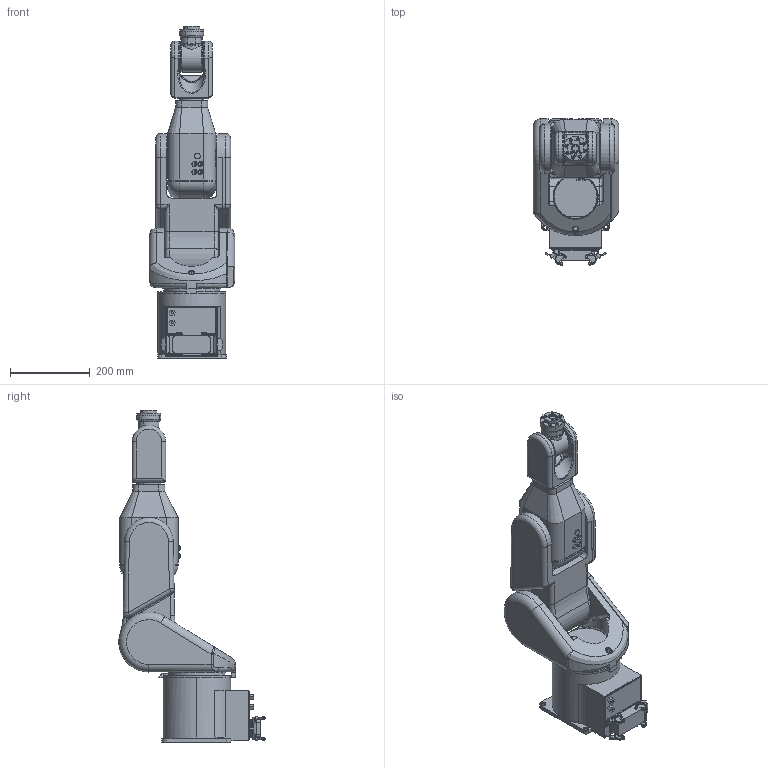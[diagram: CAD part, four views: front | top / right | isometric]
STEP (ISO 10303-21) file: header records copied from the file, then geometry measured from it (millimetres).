
FILE_DESCRIPTION(('CATIA V5 STEP Exchange'),'2;1');
FILE_NAME('D:\モデリング\☆☆☆STEP\RS\RS003N(From開発一課）_200928\3RS003N\軽量化\Part\RS003N-A001.stp','2020-10-12T06:35:48+00:00',('none'),('none'),'CATIA Version 5-6 Release 2016 SP6 HF14','CATIA V5 STEP AP203','none');
FILE_SCHEMA(('CONFIG_CONTROL_DESIGN'));
Length unit declared in the file: millimetre
Products named in the file (1): RS003N-A001
Assembly tree (7 placements, depth 2):
  RS003N-A001
    #57
    #13402
    #17312
    #21457
    #25695
    #37071
    #40166
Bounding box: 214 x 365.57 x 830 mm (x, y, z)
Volume: 16827604.4 mm3; surface area: 940697.5 mm2
Topology: 8 solids, 8 shells, 1103 faces, 2791 edges, 1728 vertices
Faces by surface type: cylinder 468, plane 440, bspline 103, torus 56, cone 24, sphere 12
Entity records: 41674 total; most frequent: CARTESIAN_POINT 17393, ORIENTED_EDGE 5506, DIRECTION 3880, EDGE_CURVE 2753, AXIS2_PLACEMENT_3D 1764, VERTEX_POINT 1728, VECTOR 1365, LINE 1365
